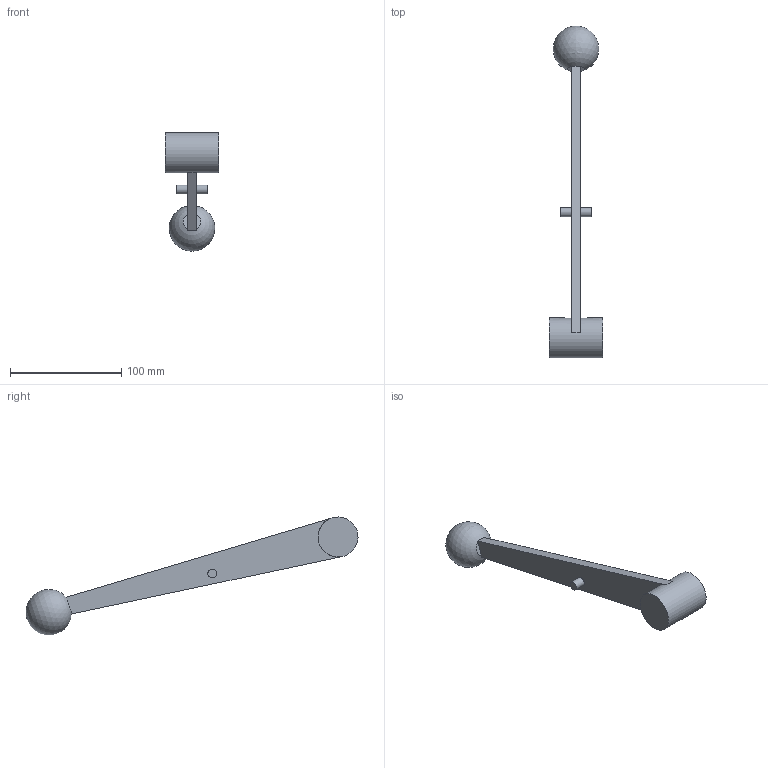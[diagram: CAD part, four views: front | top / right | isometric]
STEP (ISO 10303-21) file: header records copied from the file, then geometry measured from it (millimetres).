
FILE_DESCRIPTION(('STEP AP242'), '1');
FILE_NAME('ﾐ飼璢', '', ('UNSPECIFIED'), ('UNSPECIFIED'), 'C3D Converter', 'C3D Toolkit', '');
FILE_SCHEMA(('AP242_MANAGED_MODEL_BASED_3D_ENGINEERING_MIM_LF { 1 0 10303 442 1 1 4 }'));
Length unit declared in the file: millimetre
Bounding box: 48 x 298.76 x 106.27 mm (x, y, z)
Volume: 134272.4 mm3; surface area: 28704.1 mm2
Topology: 1 solids, 1 shells, 18 faces, 36 edges, 22 vertices
Faces by surface type: plane 14, cylinder 3, sphere 1
Full cylindrical faces by diameter (mm): 8 x2, 36 x1
Entity records: 453 total; most frequent: DIRECTION 79, CARTESIAN_POINT 67, ORIENTED_EDGE 58, AXIS2_PLACEMENT_3D 32, EDGE_CURVE 29, EDGE_LOOP 23, VERTEX_POINT 20, ADVANCED_FACE 17
